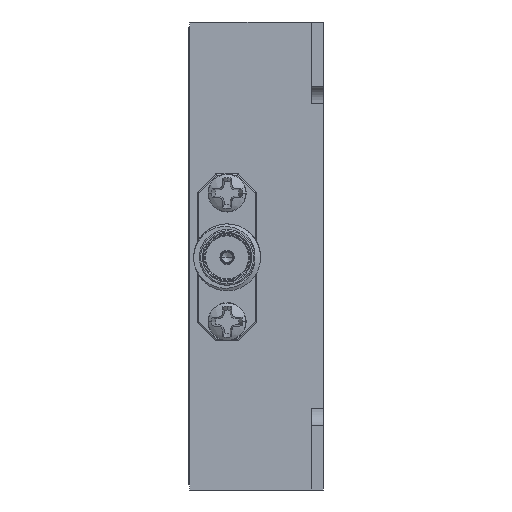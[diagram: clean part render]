
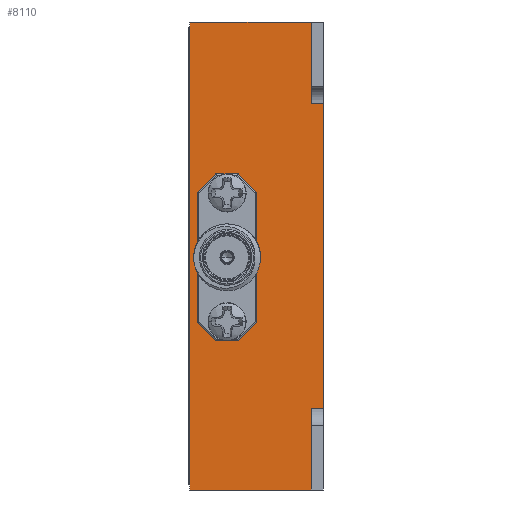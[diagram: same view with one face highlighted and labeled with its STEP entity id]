
A CAD part, left-side view. The second image highlights one B-rep face of the part: STEP entity #8110.
In plain terms, the highlighted planar face has unit normal (-1, 0, 0).
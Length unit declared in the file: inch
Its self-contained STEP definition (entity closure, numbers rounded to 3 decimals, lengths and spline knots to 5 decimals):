
#517 = VERTEX_POINT ( 'NONE', #67023 ) ;
#733 = CARTESIAN_POINT ( 'NONE',  ( 0.24, -0.14, -0.88 ) ) ;
#1075 = EDGE_CURVE ( 'NONE', #50859, #67947, #4620, .T. ) ;
#2164 = ORIENTED_EDGE ( 'NONE', *, *, #29415, .T. ) ;
#3284 = VECTOR ( 'NONE', #76151, 39.37008 ) ;
#3928 = EDGE_CURVE ( 'NONE', #26229, #8987, #52662, .T. ) ;
#4171 = CARTESIAN_POINT ( 'NONE',  ( 0.24, -0.455, -0.303 ) ) ;
#4620 = CIRCLE ( 'NONE', #67916, 0.006 ) ;
#4985 = VECTOR ( 'NONE', #32767, 39.37008 ) ;
#5753 = LINE ( 'NONE', #33935, #32705 ) ;
#7200 = DIRECTION ( 'NONE',  ( 0., 0., -1. ) ) ;
#8030 = CARTESIAN_POINT ( 'NONE',  ( 0.24, 0., -1.75 ) ) ;
#8110 = ADVANCED_FACE ( 'NONE', ( #31267, #22453 ), #52021, .F. ) ;
#8987 = VERTEX_POINT ( 'NONE', #79886 ) ;
#9152 = ORIENTED_EDGE ( 'NONE', *, *, #30914, .F. ) ;
#11555 = DIRECTION ( 'NONE',  ( 0., 1., 0. ) ) ;
#13842 = DIRECTION ( 'NONE',  ( -1., 0., 0. ) ) ;
#13908 = AXIS2_PLACEMENT_3D ( 'NONE', #733, #36752, #7200 ) ;
#16483 = CARTESIAN_POINT ( 'NONE',  ( 0.24, -0.455, 0. ) ) ;
#18834 = EDGE_CURVE ( 'NONE', #60023, #66440, #53664, .T. ) ;
#19623 = VECTOR ( 'NONE', #48503, 39.37008 ) ;
#20465 = EDGE_LOOP ( 'NONE', ( #89257, #68380, #72657, #83787, #75328, #45351, #81022, #2164 ) ) ;
#20570 = DIRECTION ( 'NONE',  ( 0., -1., 0. ) ) ;
#22453 = FACE_OUTER_BOUND ( 'NONE', #20465, .T. ) ;
#26229 = VERTEX_POINT ( 'NONE', #40859 ) ;
#27372 = VERTEX_POINT ( 'NONE', #8030 ) ;
#28532 = EDGE_CURVE ( 'NONE', #8987, #27372, #5753, .T. ) ;
#29415 = EDGE_CURVE ( 'NONE', #26229, #53651, #41848, .T. ) ;
#29444 = CARTESIAN_POINT ( 'NONE',  ( 0.24, -0.5, 0. ) ) ;
#29611 = EDGE_CURVE ( 'NONE', #60023, #517, #89771, .T. ) ;
#30914 = EDGE_CURVE ( 'NONE', #67947, #50859, #62424, .T. ) ;
#31022 = EDGE_LOOP ( 'NONE', ( #9152, #80177 ) ) ;
#31267 = FACE_BOUND ( 'NONE', #31022, .T. ) ;
#32705 = VECTOR ( 'NONE', #62004, 39.37008 ) ;
#32767 = DIRECTION ( 'NONE',  ( 0., 1., 0. ) ) ;
#33935 = CARTESIAN_POINT ( 'NONE',  ( 0.24, -0.5, -1.75 ) ) ;
#34106 = CARTESIAN_POINT ( 'NONE',  ( 0.24, -0.5, 0. ) ) ;
#34491 = EDGE_CURVE ( 'NONE', #90805, #66440, #74695, .T. ) ;
#35921 = VECTOR ( 'NONE', #20570, 39.37008 ) ;
#36162 = CARTESIAN_POINT ( 'NONE',  ( 0.24, -0.14, -0.886 ) ) ;
#36752 = DIRECTION ( 'NONE',  ( -1., 0., 0. ) ) ;
#38162 = DIRECTION ( 'NONE',  ( 0., 0., -1. ) ) ;
#38856 = CARTESIAN_POINT ( 'NONE',  ( 0.24, -0.455, -1.75 ) ) ;
#40859 = CARTESIAN_POINT ( 'NONE',  ( 0.24, -0.455, -1.447 ) ) ;
#41848 = LINE ( 'NONE', #83694, #35921 ) ;
#42005 = DIRECTION ( 'NONE',  ( 0., 0., -1. ) ) ;
#42528 = CARTESIAN_POINT ( 'NONE',  ( 0.24, 0., 0. ) ) ;
#42948 = AXIS2_PLACEMENT_3D ( 'NONE', #29444, #64861, #86482 ) ;
#45351 = ORIENTED_EDGE ( 'NONE', *, *, #28532, .F. ) ;
#48503 = DIRECTION ( 'NONE',  ( 0., 0., -1. ) ) ;
#50859 = VERTEX_POINT ( 'NONE', #52404 ) ;
#52021 = PLANE ( 'NONE',  #42948 ) ;
#52404 = CARTESIAN_POINT ( 'NONE',  ( 0.24, -0.14, -0.874 ) ) ;
#52593 = CARTESIAN_POINT ( 'NONE',  ( 0.24, -0.5, -1.447 ) ) ;
#52662 = LINE ( 'NONE', #38856, #60871 ) ;
#53433 = EDGE_CURVE ( 'NONE', #90805, #53651, #61829, .T. ) ;
#53651 = VERTEX_POINT ( 'NONE', #52593 ) ;
#53664 = LINE ( 'NONE', #16483, #66073 ) ;
#60023 = VERTEX_POINT ( 'NONE', #78593 ) ;
#60871 = VECTOR ( 'NONE', #88036, 39.37008 ) ;
#61829 = LINE ( 'NONE', #67803, #19623 ) ;
#62004 = DIRECTION ( 'NONE',  ( 0., 1., 0. ) ) ;
#62424 = CIRCLE ( 'NONE', #13908, 0.006 ) ;
#64861 = DIRECTION ( 'NONE',  ( 1., 0., 0. ) ) ;
#66073 = VECTOR ( 'NONE', #38162, 39.37008 ) ;
#66440 = VERTEX_POINT ( 'NONE', #75409 ) ;
#67023 = CARTESIAN_POINT ( 'NONE',  ( 0.24, 0., 0. ) ) ;
#67803 = CARTESIAN_POINT ( 'NONE',  ( 0.24, -0.5, 0. ) ) ;
#67916 = AXIS2_PLACEMENT_3D ( 'NONE', #69567, #13842, #42005 ) ;
#67947 = VERTEX_POINT ( 'NONE', #36162 ) ;
#68380 = ORIENTED_EDGE ( 'NONE', *, *, #34491, .T. ) ;
#69217 = LINE ( 'NONE', #42528, #3284 ) ;
#69567 = CARTESIAN_POINT ( 'NONE',  ( 0.24, -0.14, -0.88 ) ) ;
#70195 = CARTESIAN_POINT ( 'NONE',  ( 0.24, -0.5, -0.303 ) ) ;
#72657 = ORIENTED_EDGE ( 'NONE', *, *, #18834, .F. ) ;
#72773 = EDGE_CURVE ( 'NONE', #517, #27372, #69217, .T. ) ;
#73393 = VECTOR ( 'NONE', #11555, 39.37008 ) ;
#74695 = LINE ( 'NONE', #4171, #73393 ) ;
#75328 = ORIENTED_EDGE ( 'NONE', *, *, #72773, .T. ) ;
#75409 = CARTESIAN_POINT ( 'NONE',  ( 0.24, -0.455, -0.303 ) ) ;
#76151 = DIRECTION ( 'NONE',  ( 0., 0., -1. ) ) ;
#78593 = CARTESIAN_POINT ( 'NONE',  ( 0.24, -0.455, 0. ) ) ;
#79886 = CARTESIAN_POINT ( 'NONE',  ( 0.24, -0.455, -1.75 ) ) ;
#80177 = ORIENTED_EDGE ( 'NONE', *, *, #1075, .F. ) ;
#81022 = ORIENTED_EDGE ( 'NONE', *, *, #3928, .F. ) ;
#83694 = CARTESIAN_POINT ( 'NONE',  ( 0.24, -0.5, -1.447 ) ) ;
#83787 = ORIENTED_EDGE ( 'NONE', *, *, #29611, .T. ) ;
#86482 = DIRECTION ( 'NONE',  ( 0., 0., -1. ) ) ;
#88036 = DIRECTION ( 'NONE',  ( 0., 0., -1. ) ) ;
#89257 = ORIENTED_EDGE ( 'NONE', *, *, #53433, .F. ) ;
#89771 = LINE ( 'NONE', #34106, #4985 ) ;
#90805 = VERTEX_POINT ( 'NONE', #70195 ) ;
